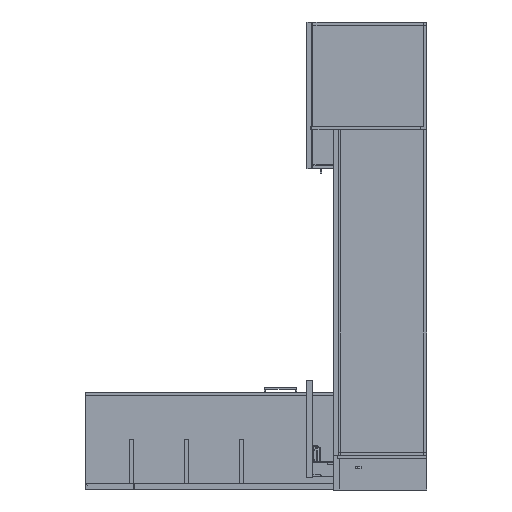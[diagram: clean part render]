
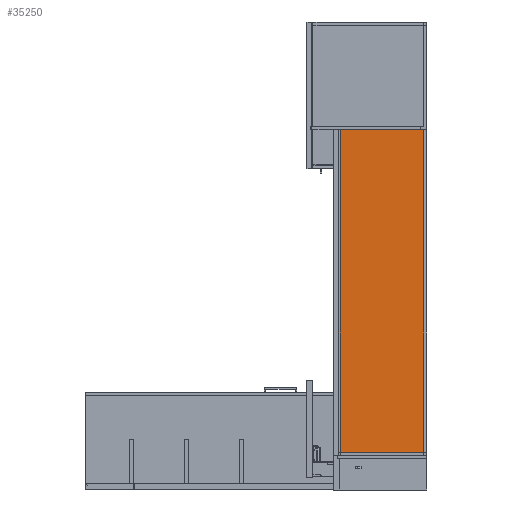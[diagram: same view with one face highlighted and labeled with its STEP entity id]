
A CAD part, left-side view. The second image highlights one B-rep face of the part: STEP entity #35250.
In plain terms, the highlighted planar face has unit normal (-1, 0, 0) as drawn and (0, 0, -1) by its records, which use the part's own axes.
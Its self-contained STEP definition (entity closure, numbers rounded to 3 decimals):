
#7034=FACE_OUTER_BOUND('',#8944,.T.);
#8944=EDGE_LOOP('',(#31059,#31060,#31061,#31062));
#11914=LINE('',#62219,#15223);
#11917=LINE('',#62225,#15226);
#11920=LINE('',#62231,#15229);
#11921=LINE('',#62232,#15230);
#15223=VECTOR('',#47560,0.394);
#15226=VECTOR('',#47565,0.394);
#15229=VECTOR('',#47570,0.394);
#15230=VECTOR('',#47571,0.394);
#18356=VERTEX_POINT('',#62215);
#18358=VERTEX_POINT('',#62218);
#18360=VERTEX_POINT('',#62224);
#18362=VERTEX_POINT('',#62230);
#22664=EDGE_CURVE('',#18358,#18356,#11914,.T.);
#22667=EDGE_CURVE('',#18360,#18358,#11917,.T.);
#22670=EDGE_CURVE('',#18356,#18362,#11920,.T.);
#22671=EDGE_CURVE('',#18362,#18360,#11921,.T.);
#31059=ORIENTED_EDGE('',*,*,#22664,.T.);
#31060=ORIENTED_EDGE('',*,*,#22670,.T.);
#31061=ORIENTED_EDGE('',*,*,#22671,.T.);
#31062=ORIENTED_EDGE('',*,*,#22667,.T.);
#33394=PLANE('',#39187);
#35250=ADVANCED_FACE('',(#7034),#33394,.T.);
#39187=AXIS2_PLACEMENT_3D('',#62229,#47568,#47569);
#47560=DIRECTION('',(0.,1.,0.));
#47565=DIRECTION('',(-1.,0.,0.));
#47568=DIRECTION('center_axis',(0.,0.,-1.));
#47569=DIRECTION('ref_axis',(1.,0.,0.));
#47570=DIRECTION('',(1.,0.,0.));
#47571=DIRECTION('',(0.,-1.,0.));
#62215=CARTESIAN_POINT('',(17.641,-0.375,-20.));
#62218=CARTESIAN_POINT('',(17.641,-20.938,-20.));
#62219=CARTESIAN_POINT('',(17.641,0.656,-20.));
#62224=CARTESIAN_POINT('',(97.,-20.938,-20.));
#62225=CARTESIAN_POINT('',(24.813,-20.938,-20.));
#62229=CARTESIAN_POINT('Origin',(0.75,0.,-20.));
#62230=CARTESIAN_POINT('',(97.,-0.375,-20.));
#62231=CARTESIAN_POINT('',(0.75,-0.375,-20.));
#62232=CARTESIAN_POINT('',(97.,0.,-20.));
